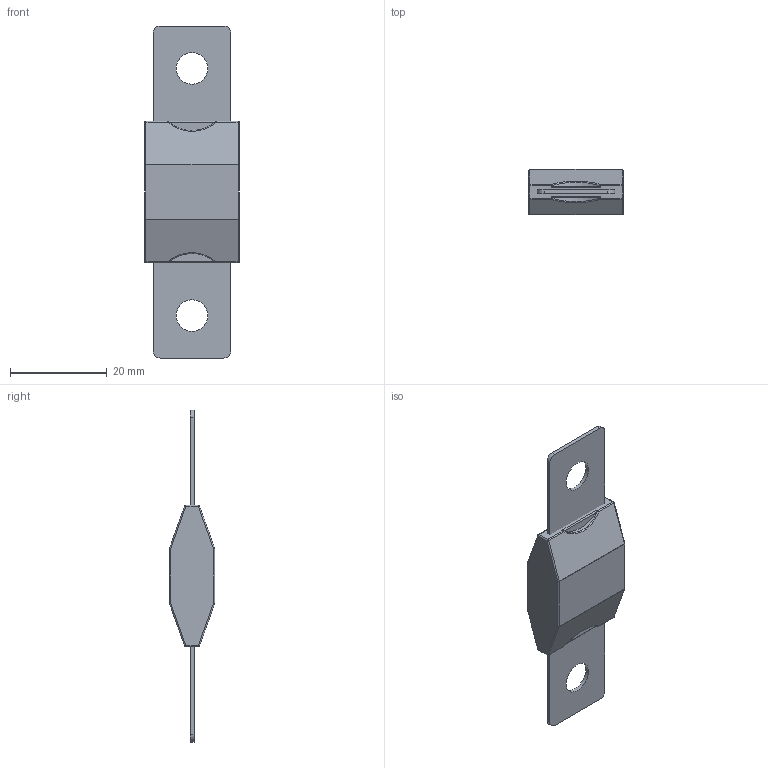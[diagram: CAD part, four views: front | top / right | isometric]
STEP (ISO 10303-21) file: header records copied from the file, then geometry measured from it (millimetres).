
FILE_DESCRIPTION(/* description */ (''),/* implementation_level */ '2;1');
FILE_NAME(/* name */ 'C:\Users\Hani\Desktop\work\MGGA-B\MGGA-B.stp',/* time_stamp */ '2022-02-01T08:18:50-08:00',/* author */ ('Hani'),/* organization */ (''),/* preprocessor_version */ 'ST-DEVELOPER v17',/* originating_system */ 'Autodesk Inventor 2019',/* authorisation */ '');
FILE_SCHEMA (('AUTOMOTIVE_DESIGN { 1 0 10303 214 3 1 1 }'));
Length unit declared in the file: inch
Products named in the file (3): MGGA-200; terminal; body
Assembly tree (2 placements, depth 2):
  MGGA-200
    terminal
    body
Bounding box: 19.5 x 9.33 x 68.5 mm (x, y, z)
Volume: 4710.8 mm3; surface area: 3275.2 mm2
Topology: 2 solids, 2 shells, 274 faces, 702 edges, 444 vertices
Faces by surface type: plane 113, bspline 71, cylinder 66, sphere 24
Full cylindrical faces by diameter (mm): 6.5 x2
Entity records: 9058 total; most frequent: CARTESIAN_POINT 2678, ORIENTED_EDGE 1404, DIRECTION 1112, EDGE_CURVE 702, VERTEX_POINT 444, LINE 424, VECTOR 424, AXIS2_PLACEMENT_3D 344
